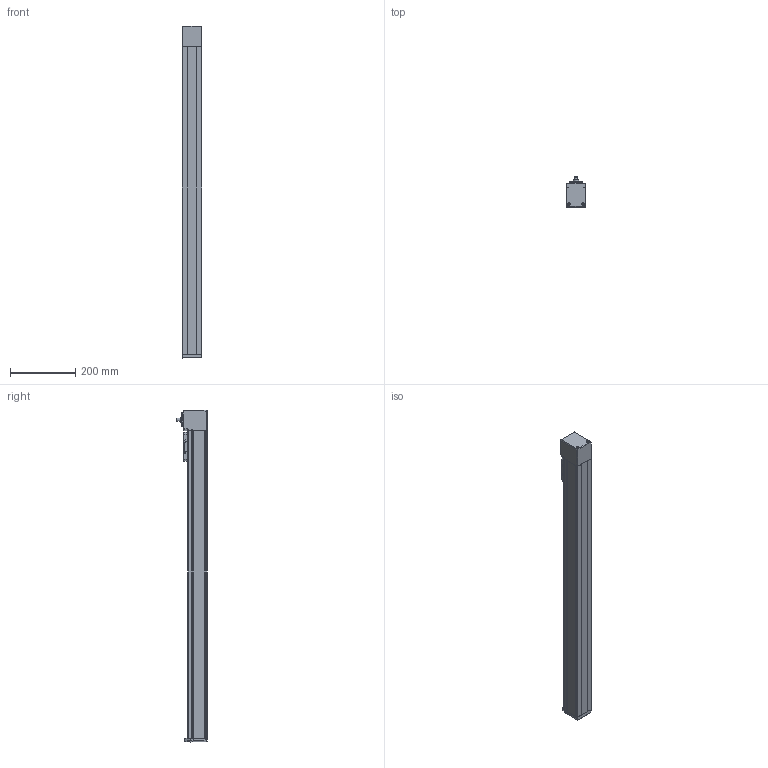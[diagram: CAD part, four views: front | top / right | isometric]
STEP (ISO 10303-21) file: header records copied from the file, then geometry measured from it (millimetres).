
FILE_DESCRIPTION(/* description */ ('STEP AP214'),/* implementation_level */ '2;1');
FILE_NAME(/* name */ 'MGTB 60 800(0)',/* time_stamp */ '2023-04-17T13:40:30+02:00',/* author */ ('License CC BY-ND 4.0'),/* organization */ ('CADENAS'),/* preprocessor_version */ 'ST-DEVELOPER v19.3',/* originating_system */ 'PARTsolutions',/* authorisation */ ' ');
FILE_SCHEMA (('AUTOMOTIVE_DESIGN {1 0 10303 214 3 1 1}'));
Length unit declared in the file: millimetre
Products named in the file (6): MGTB 60 800(0); MGTB 60 800_protection_strip; MGTB 60_carriage; MGTB 60_end_block; MGTB 60 800_profile; MGTB 60_drive_block
Assembly tree (5 placements, depth 2):
  MGTB 60 800(0)
    MGTB 60 800_protection_strip
    MGTB 60_carriage
    MGTB 60_end_block
    MGTB 60 800_profile
    MGTB 60_drive_block
Bounding box: 60 x 92.5 x 1015.01 mm (x, y, z)
Volume: 3592179.3 mm3; surface area: 424739.4 mm2
Topology: 5 solids, 5 shells, 696 faces, 1771 edges, 1140 vertices
Faces by surface type: plane 351, cylinder 156, cone 94, bspline 68, torus 25, sphere 2
Full cylindrical faces by diameter (mm): 2 x1, 2.459 x4, 3.242 x6, 4 x12, 4.134 x8, 4.2 x2, 4.8 x2, 5 x2, 5.5 x4, 7 x6, 8 x4, 10 x1, 11 x3, 16 x1, 17 x1, 30 x1, 35 x1, 42 x2
Entity records: 25037 total; most frequent: CARTESIAN_POINT 4184, DIRECTION 3411, ORIENTED_EDGE 3232, EDGE_CURVE 1616, AXIS2_PLACEMENT_3D 1219, VERTEX_POINT 1120, LINE 973, VECTOR 973
